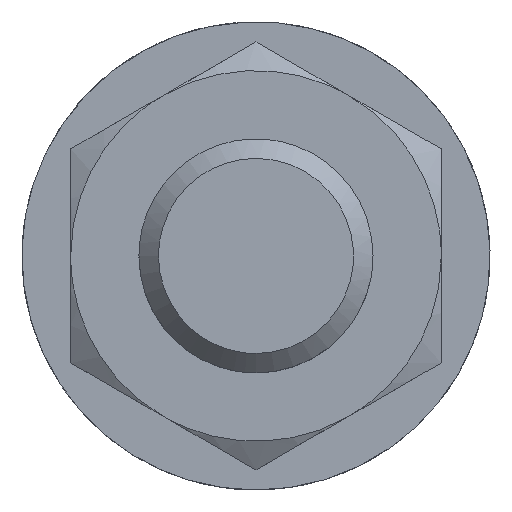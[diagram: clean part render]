
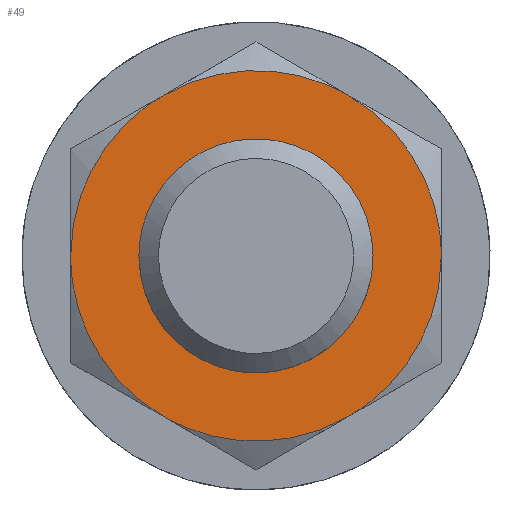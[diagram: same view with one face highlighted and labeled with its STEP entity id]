
A CAD part, left-side view. The second image highlights one B-rep face of the part: STEP entity #49.
In plain terms, the highlighted planar face has unit normal (-1, 0, 0).
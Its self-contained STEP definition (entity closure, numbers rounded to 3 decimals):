
#40=FACE_BOUND('',#138,.T.);
#49=ADVANCED_FACE('',(#92,#40),#658,.T.);
#92=FACE_OUTER_BOUND('',#137,.T.);
#137=EDGE_LOOP('',(#202,#203,#204,#205,#206,#207));
#138=EDGE_LOOP('',(#208,#209));
#202=ORIENTED_EDGE('',*,*,#403,.F.);
#203=ORIENTED_EDGE('',*,*,#405,.F.);
#204=ORIENTED_EDGE('',*,*,#406,.F.);
#205=ORIENTED_EDGE('',*,*,#404,.F.);
#206=ORIENTED_EDGE('',*,*,#402,.F.);
#207=ORIENTED_EDGE('',*,*,#401,.F.);
#208=ORIENTED_EDGE('',*,*,#391,.F.);
#209=ORIENTED_EDGE('',*,*,#389,.F.);
#389=EDGE_CURVE('',#604,#594,#515,.T.);
#391=EDGE_CURVE('',#594,#604,#516,.T.);
#401=EDGE_CURVE('',#598,#599,#524,.T.);
#402=EDGE_CURVE('',#599,#603,#525,.T.);
#403=EDGE_CURVE('',#600,#598,#526,.T.);
#404=EDGE_CURVE('',#603,#602,#527,.T.);
#405=EDGE_CURVE('',#601,#600,#528,.T.);
#406=EDGE_CURVE('',#602,#601,#529,.T.);
#515=(
BOUNDED_CURVE()
B_SPLINE_CURVE(2,(#1161,#1162,#1163,#1164,#1165),.UNSPECIFIED.,.F.,.F.)
B_SPLINE_CURVE_WITH_KNOTS((3,2,3),(18.85,28.275,37.7),
 .UNSPECIFIED.)
CURVE()
GEOMETRIC_REPRESENTATION_ITEM()
RATIONAL_B_SPLINE_CURVE((1.,0.707,1.,0.707,1.))
REPRESENTATION_ITEM('')
);
#516=(
BOUNDED_CURVE()
B_SPLINE_CURVE(2,(#1168,#1169,#1170,#1171,#1172),.UNSPECIFIED.,.F.,.F.)
B_SPLINE_CURVE_WITH_KNOTS((3,2,3),(0.,9.425,18.85),
 .UNSPECIFIED.)
CURVE()
GEOMETRIC_REPRESENTATION_ITEM()
RATIONAL_B_SPLINE_CURVE((1.,0.707,1.,0.707,1.))
REPRESENTATION_ITEM('')
);
#524=(
BOUNDED_CURVE()
B_SPLINE_CURVE(2,(#1210,#1211,#1212),.UNSPECIFIED.,.F.,.F.)
B_SPLINE_CURVE_WITH_KNOTS((3,3),(0.,9.948),.UNSPECIFIED.)
CURVE()
GEOMETRIC_REPRESENTATION_ITEM()
RATIONAL_B_SPLINE_CURVE((1.,0.866,1.))
REPRESENTATION_ITEM('')
);
#525=(
BOUNDED_CURVE()
B_SPLINE_CURVE(2,(#1213,#1214,#1215),.UNSPECIFIED.,.F.,.F.)
B_SPLINE_CURVE_WITH_KNOTS((3,3),(0.,9.948),.UNSPECIFIED.)
CURVE()
GEOMETRIC_REPRESENTATION_ITEM()
RATIONAL_B_SPLINE_CURVE((1.,0.866,1.))
REPRESENTATION_ITEM('')
);
#526=(
BOUNDED_CURVE()
B_SPLINE_CURVE(2,(#1216,#1217,#1218),.UNSPECIFIED.,.F.,.F.)
B_SPLINE_CURVE_WITH_KNOTS((3,3),(0.,9.948),.UNSPECIFIED.)
CURVE()
GEOMETRIC_REPRESENTATION_ITEM()
RATIONAL_B_SPLINE_CURVE((1.,0.866,1.))
REPRESENTATION_ITEM('')
);
#527=(
BOUNDED_CURVE()
B_SPLINE_CURVE(2,(#1219,#1220,#1221),.UNSPECIFIED.,.F.,.F.)
B_SPLINE_CURVE_WITH_KNOTS((3,3),(0.,9.948),.UNSPECIFIED.)
CURVE()
GEOMETRIC_REPRESENTATION_ITEM()
RATIONAL_B_SPLINE_CURVE((1.,0.866,1.))
REPRESENTATION_ITEM('')
);
#528=(
BOUNDED_CURVE()
B_SPLINE_CURVE(2,(#1222,#1223,#1224),.UNSPECIFIED.,.F.,.F.)
B_SPLINE_CURVE_WITH_KNOTS((3,3),(0.,9.948),.UNSPECIFIED.)
CURVE()
GEOMETRIC_REPRESENTATION_ITEM()
RATIONAL_B_SPLINE_CURVE((1.,0.866,1.))
REPRESENTATION_ITEM('')
);
#529=(
BOUNDED_CURVE()
B_SPLINE_CURVE(2,(#1225,#1226,#1227),.UNSPECIFIED.,.F.,.F.)
B_SPLINE_CURVE_WITH_KNOTS((3,3),(0.,9.948),.UNSPECIFIED.)
CURVE()
GEOMETRIC_REPRESENTATION_ITEM()
RATIONAL_B_SPLINE_CURVE((1.,0.866,1.))
REPRESENTATION_ITEM('')
);
#594=VERTEX_POINT('',#1129);
#598=VERTEX_POINT('',#1133);
#599=VERTEX_POINT('',#1134);
#600=VERTEX_POINT('',#1135);
#601=VERTEX_POINT('',#1136);
#602=VERTEX_POINT('',#1137);
#603=VERTEX_POINT('',#1138);
#604=VERTEX_POINT('',#1139);
#658=PLANE('',#772);
#772=AXIS2_PLACEMENT_3D('',#886,#798,$);
#798=DIRECTION('',(-1.,0.,0.));
#886=CARTESIAN_POINT('',(18.833,-11.52,-13.284));
#1129=CARTESIAN_POINT('',(18.833,6.,0.));
#1133=CARTESIAN_POINT('',(18.833,-4.75,-8.227));
#1134=CARTESIAN_POINT('',(18.833,4.75,-8.227));
#1135=CARTESIAN_POINT('',(18.833,-9.5,0.));
#1136=CARTESIAN_POINT('',(18.833,-4.75,8.227));
#1137=CARTESIAN_POINT('',(18.833,4.75,8.227));
#1138=CARTESIAN_POINT('',(18.833,9.5,0.));
#1139=CARTESIAN_POINT('',(18.833,-6.,0.));
#1161=CARTESIAN_POINT('',(18.833,-6.,0.));
#1162=CARTESIAN_POINT('',(18.833,-6.,6.));
#1163=CARTESIAN_POINT('',(18.833,0.,6.));
#1164=CARTESIAN_POINT('',(18.833,6.,6.));
#1165=CARTESIAN_POINT('',(18.833,6.,0.));
#1168=CARTESIAN_POINT('',(18.833,6.,0.));
#1169=CARTESIAN_POINT('',(18.833,6.,-6.));
#1170=CARTESIAN_POINT('',(18.833,0.,-6.));
#1171=CARTESIAN_POINT('',(18.833,-6.,-6.));
#1172=CARTESIAN_POINT('',(18.833,-6.,0.));
#1210=CARTESIAN_POINT('',(18.833,-4.75,-8.227));
#1211=CARTESIAN_POINT('',(18.833,0.,-10.97));
#1212=CARTESIAN_POINT('',(18.833,4.75,-8.227));
#1213=CARTESIAN_POINT('',(18.833,4.75,-8.227));
#1214=CARTESIAN_POINT('',(18.833,9.5,-5.485));
#1215=CARTESIAN_POINT('',(18.833,9.5,0.));
#1216=CARTESIAN_POINT('',(18.833,-9.5,0.));
#1217=CARTESIAN_POINT('',(18.833,-9.5,-5.485));
#1218=CARTESIAN_POINT('',(18.833,-4.75,-8.227));
#1219=CARTESIAN_POINT('',(18.833,9.5,0.));
#1220=CARTESIAN_POINT('',(18.833,9.5,5.485));
#1221=CARTESIAN_POINT('',(18.833,4.75,8.227));
#1222=CARTESIAN_POINT('',(18.833,-4.75,8.227));
#1223=CARTESIAN_POINT('',(18.833,-9.5,5.485));
#1224=CARTESIAN_POINT('',(18.833,-9.5,0.));
#1225=CARTESIAN_POINT('',(18.833,4.75,8.227));
#1226=CARTESIAN_POINT('',(18.833,0.,10.97));
#1227=CARTESIAN_POINT('',(18.833,-4.75,8.227));
